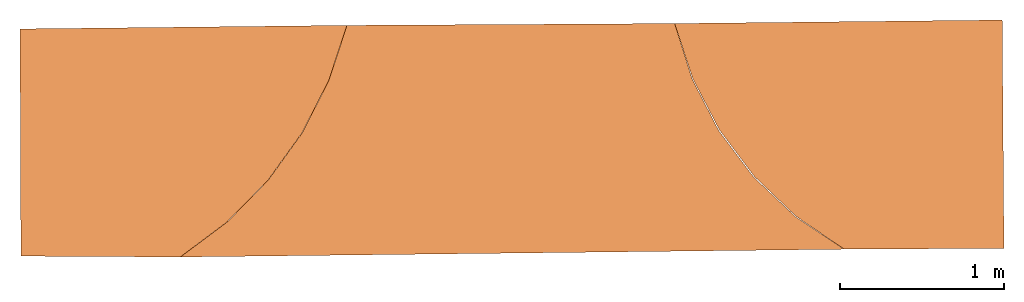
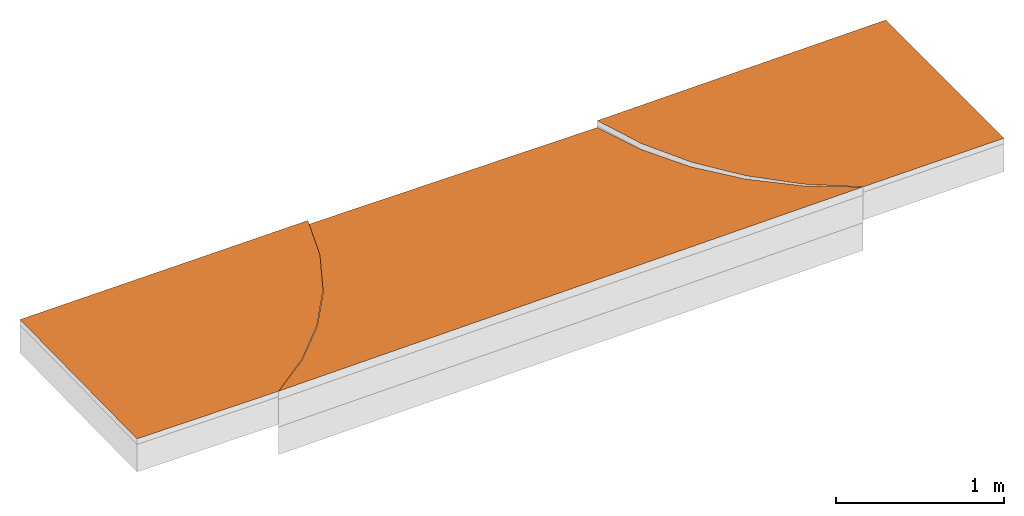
# One storey, part 2 of 2: 3 proxies.
"""IFC2X3 building model written with IfcOpenShell, lengths in metres."""

import ifcopenshell
import ifcopenshell.guid

model = None  # the IFC model being written
_history = None  # IfcOwnerHistory: only IFC2X3 demands one
_inside = {}  # id of a spatial element -> (the spatial element, [elements in it])
_under = {}  # id of a project, library or spatial element -> (it, [spatial elements below it])
_declared = {}  # id of a project -> (the project, [libraries it declares])
_typed = {}  # id of a type object -> (the type object, [elements of that type])
_made_of = {}  # id of a material, layer set ... -> (it, [elements and type objects made of it])


def new_model(schema):
    """Start an empty IFC model of exactly this schema.

    Asked for "IFC4X3", IfcOpenShell would pick the latest addendum, in which some entities
    have other attributes; the version numbers below select the first issue.
    IFC2X3 requires an IfcOwnerHistory on every rooted entity: one is made here for all.
    """
    global model, _history
    if schema == "IFC4X3":
        model = ifcopenshell.file(schema_version=(4, 3, 0, 0))
    else:
        model = ifcopenshell.file(schema=schema)
    _inside.clear()
    _under.clear()
    _declared.clear()
    _typed.clear()
    _made_of.clear()
    _history = None
    if model.schema == "IFC2X3":
        org = make("IfcOrganization", Name="unknown")
        user = make(
            "IfcPersonAndOrganization",
            ThePerson=make("IfcPerson", FamilyName="unknown"),
            TheOrganization=org,
        )
        app = make(
            "IfcApplication",
            ApplicationDeveloper=org,
            Version="unknown",
            ApplicationFullName="unknown",
            ApplicationIdentifier="unknown",
        )
        _history = make(
            "IfcOwnerHistory",
            OwningUser=user,
            OwningApplication=app,
            ChangeAction="ADDED",
            CreationDate=0,
        )
    return model


def make(cls, **values):
    """One entity of the class cls with the attributes given. An attribute that is None is left unset."""
    return model.create_entity(
        cls, **{name: value for name, value in values.items() if value is not None}
    )


def rooted(cls, **values):
    """An entity with a GlobalId (a new one), such as an element, a storey or a relation."""
    return make(cls, GlobalId=ifcopenshell.guid.new(), OwnerHistory=_history, **values)


def si_unit(unit_type, name, prefix=None):
    """IfcSIUnit, for example si_unit("LENGTHUNIT", "METRE", prefix="MILLI")."""
    return make("IfcSIUnit", UnitType=unit_type, Prefix=prefix, Name=name)


def assignment(units):
    """IfcUnitAssignment: the units of a project."""
    return None if units is None else make("IfcUnitAssignment", Units=units)


def point(xyz):
    """IfcCartesianPoint."""
    return None if xyz is None else make("IfcCartesianPoint", Coordinates=xyz)


def direction(xyz):
    """IfcDirection."""
    return None if xyz is None else make("IfcDirection", DirectionRatios=xyz)


def frame(location, z_axis=None, x_axis=None):
    """IfcAxis2Placement3D, a coordinate frame: its origin and axes. An axis left out is left unset."""
    return make(
        "IfcAxis2Placement3D",
        Location=point(location),
        Axis=direction(z_axis),
        RefDirection=direction(x_axis),
    )


def origin():
    """The frame at (0, 0, 0) with its axes left unset."""
    return frame((0.0, 0.0, 0.0))


def place(relative_to, where):
    """IfcLocalPlacement: puts the frame where relative to a parent placement (None: the world)."""
    return make(
        "IfcLocalPlacement", PlacementRelTo=relative_to, RelativePlacement=where
    )


def context(
    kind, dimensions, precision=None, world=None, true_north=None, identifier=None
):
    """IfcGeometricRepresentationContext, for example the 3D "Model" context."""
    return make(
        "IfcGeometricRepresentationContext",
        ContextIdentifier=identifier,
        ContextType=kind,
        CoordinateSpaceDimension=dimensions,
        Precision=precision,
        WorldCoordinateSystem=world,
        TrueNorth=true_north,
    )


def subcontext(parent, identifier, kind, view, scale=None):
    """IfcGeometricRepresentationSubContext, for example "Body" below "Model"."""
    return make(
        "IfcGeometricRepresentationSubContext",
        ContextIdentifier=identifier,
        ContextType=kind,
        ParentContext=parent,
        TargetScale=scale,
        TargetView=view,
    )


def project(units=None, contexts=None):
    """IfcProject with its units and contexts."""
    return rooted(
        "IfcProject",
        Name="project",
        RepresentationContexts=contexts,
        UnitsInContext=assignment(units),
    )


def spatial(cls, under=None, at=None, **own):
    """A site, building, storey or space (cls), placed at a placement, below another one or the project."""
    s = rooted(cls, ObjectPlacement=at, **own)
    if under is not None:
        _under.setdefault(under.id(), (under, []))[1].append(s)
    return s


def faces_of(points, faces, orient=None, outer=None):
    """IfcFace entities. A face is a list of loops; a loop is a list of indices into points, from 0.

    orient and outer hold one flag for each loop. By default every Orientation is true, the
    first loop of a face is its IfcFaceOuterBound and the others are IfcFaceBound.
    """
    made = []
    for i, loops in enumerate(faces):
        bounds = []
        for j, loop in enumerate(loops):
            is_outer = j == 0 if outer is None else outer[i][j]
            bounds.append(
                make(
                    "IfcFaceOuterBound" if is_outer else "IfcFaceBound",
                    Bound=make("IfcPolyLoop", Polygon=[points[k] for k in loop]),
                    Orientation=True if orient is None else orient[i][j],
                )
            )
        made.append(make("IfcFace", Bounds=bounds))
    return made


def open_shell(faces, orient=None, outer=None):
    """The faces of one IfcOpenShell. surface_model builds it on its shared points."""
    return ("IfcOpenShell", faces, orient, outer)


def surface_model(cls, points, shells):
    """IfcFaceBasedSurfaceModel or IfcShellBasedSurfaceModel (cls): surfaces that need not close."""
    shared = [point(p) for p in points]
    made = [make(c, CfsFaces=faces_of(shared, fs, o, b)) for c, fs, o, b in shells]
    if cls == "IfcFaceBasedSurfaceModel":
        return make(cls, FbsmFaces=made)
    return make(cls, SbsmBoundary=made)


def shape(context_of_items, identifier, shape_type, items):
    """IfcShapeRepresentation: the items that make up one representation, for example the "Body"."""
    return make(
        "IfcShapeRepresentation",
        ContextOfItems=context_of_items,
        RepresentationIdentifier=identifier,
        RepresentationType=shape_type,
        Items=items,
    )


def made_of(thing, what):
    """Note that an element or type object is made of a material, layer set ...; save() writes the relation."""
    if what is not None:
        _made_of.setdefault(what.id(), (what, []))[1].append(thing)
    return thing


def element(
    cls,
    number,
    at=None,
    inside=None,
    cuts=None,
    type_object=None,
    material=None,
    context=None,
    identifier="Body",
    shape_type=None,
    held_by="IfcProductDefinitionShape",
    body=None,
    shapes=None,
    **own,
):
    """One element of the class cls, such as IfcWall. Its Tag is "e" and its number.

    at: its placement. inside: the storey or other place that contains it. cuts: it is an
    opening in that element (IfcRelVoidsElement). A single representation is given by context,
    identifier, shape_type and body (its items); several are given by shapes. held_by: the class
    of the entity that holds the representations. save() writes the other relations.
    """
    e = rooted(cls, Tag="e%d" % number, ObjectPlacement=at, **own)
    if body is not None:
        shapes = [shape(context, identifier, shape_type, body)]
    if shapes is not None:
        e.Representation = make(held_by, Representations=shapes)
    if inside is not None:
        _inside.setdefault(inside.id(), (inside, []))[1].append(e)
    if cuts is not None:
        rooted(
            "IfcRelVoidsElement", RelatingBuildingElement=cuts, RelatedOpeningElement=e
        )
    if type_object is not None:
        _typed.setdefault(type_object.id(), (type_object, []))[1].append(e)
    return made_of(e, material)


def aggregate(whole, parts):
    """IfcRelAggregates: a whole, such as a stair, and the parts it consists of."""
    return rooted("IfcRelAggregates", RelatingObject=whole, RelatedObjects=parts)


def save(model, path):
    """Write the relations noted so far, then the file.

    IfcRelAggregates (storeys below a building ...), IfcRelContainedInSpatialStructure (elements
    in a storey), IfcRelDefinesByType, IfcRelAssociatesMaterial and IfcRelDeclares: one each for
    every whole, place, type object, material and project.
    """
    for whole, parts in _under.values():
        aggregate(whole, parts)
    for where, things in _inside.values():
        rooted(
            "IfcRelContainedInSpatialStructure",
            RelatedElements=things,
            RelatingStructure=where,
        )
    for kind, things in _typed.values():
        rooted("IfcRelDefinesByType", RelatedObjects=things, RelatingType=kind)
    for what, things in _made_of.values():
        rooted("IfcRelAssociatesMaterial", RelatedObjects=things, RelatingMaterial=what)
    for by, libraries in _declared.values():
        rooted("IfcRelDeclares", RelatingContext=by, RelatedDefinitions=libraries)
    model.write(path)


model = new_model("IFC2X3")

# Units and contexts
model_context = context("Model", 3, world=origin())
body_context = subcontext(model_context, "Body", "Model", "MODEL_VIEW")
ifc_project = project(units=[si_unit("LENGTHUNIT", "METRE"), si_unit("AREAUNIT", "SQUARE_METRE"), si_unit("VOLUMEUNIT", "CUBIC_METRE"), si_unit("PLANEANGLEUNIT", "RADIAN"), si_unit("MASSUNIT", "GRAM", prefix="KILO")], contexts=[model_context])

# Site, building, storey
site_placement = place(None, frame((0.012740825, -0.748863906, 0.77), z_axis=(0.0, 0.0, 1.0), x_axis=(1.0, 0.0, 0.0)))
site = spatial("IfcSite", under=ifc_project, at=site_placement, Name="Terrain", CompositionType="COMPLEX")
building_placement = place(site_placement, origin())
building = spatial("IfcBuilding", under=site, at=building_placement, Name="Non défini (Terrain)", CompositionType="ELEMENT")
storey_placement = place(building_placement, origin())
storey = spatial("IfcBuildingStorey", under=building, at=storey_placement, Name="Extérieur (Terrain)", CompositionType="ELEMENT")

# Proxies
proxy_1_placement = place(storey_placement, origin())
element("IfcBuildingElementProxy", 1, at=proxy_1_placement, inside=storey, Name="1", ObjectType="Surface projet", CompositionType="ELEMENT", context=body_context, shape_type="SurfaceModel", body=[
    surface_model("IfcFaceBasedSurfaceModel", [(0.005421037, -1.38236425, -0.03), (0.0, 0.0, 0.0), (0.975786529, -1.387785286, -0.02), (1.989520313, 0.021684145, 0.01), (1.8776785, -0.315610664, 0.004), (1.508670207, -0.920622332, -0.008), (1.716158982, -0.632135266, -0.002), (1.25997607, -1.174448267, -0.014)], [open_shell([[[0, 1, 2]], [[3, 4, 1]], [[5, 1, 6]], [[7, 1, 5]], [[2, 1, 7]], [[6, 1, 4]]], orient=[[False], [False], [False], [False], [False], [False]])]),
])
proxy_2_placement = place(storey_placement, origin())
element("IfcBuildingElementProxy", 2, at=proxy_2_placement, inside=storey, Name="3", ObjectType="Surface projet", CompositionType="ELEMENT", context=body_context, shape_type="SurfaceModel", body=[
    surface_model("IfcFaceBasedSurfaceModel", [(1.878267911, -0.315911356, -0.02), (1.989520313, 0.021684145, -0.02), (4.089737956, -0.304233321, -0.012), (0.975786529, -1.387785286, -0.02), (1.260448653, -1.174911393, -0.02), (4.720549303, -1.144225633, 0.012), (4.463671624, -0.901334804, 0.004), (4.251378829, -0.618644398, -0.004), (3.983368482, 0.032912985, -0.02), (1.50944663, -0.92124266, -0.02), (1.716994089, -0.632674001, -0.02), (5.014670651, -1.340375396, 0.02)], [open_shell([[[0, 1, 2]], [[3, 4, 5]], [[5, 4, 6]], [[0, 2, 7]], [[1, 8, 2]], [[6, 9, 7]], [[7, 10, 0]], [[10, 7, 9]], [[9, 6, 4]], [[11, 3, 5]]], orient=[[False], [False], [False], [False], [False], [False], [False], [False], [False], [False]])]),
])
proxy_3_placement = place(storey_placement, origin())
element("IfcBuildingElementProxy", 3, at=proxy_3_placement, inside=storey, Name="2", ObjectType="Surface projet", CompositionType="ELEMENT", context=body_context, shape_type="SurfaceModel", body=[
    surface_model("IfcFaceBasedSurfaceModel", [(5.976506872, 0.054287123, 0.05), (5.014670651, -1.340375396, 0.02), (4.723178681, -1.141462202, 0.022), (5.987193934, -1.335031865, 0.03), (4.468056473, -0.897645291, 0.024), (4.256144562, -0.615462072, 0.026), (4.093124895, -0.302478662, 0.028), (3.983368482, 0.032912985, 0.03)], [open_shell([[[0, 1, 2]], [[0, 3, 1]], [[4, 0, 2]], [[0, 4, 5]], [[0, 5, 6]], [[7, 0, 6]]], orient=[[False], [False], [False], [False], [False], [False]])]),
])

save(model, "model.ifc")
